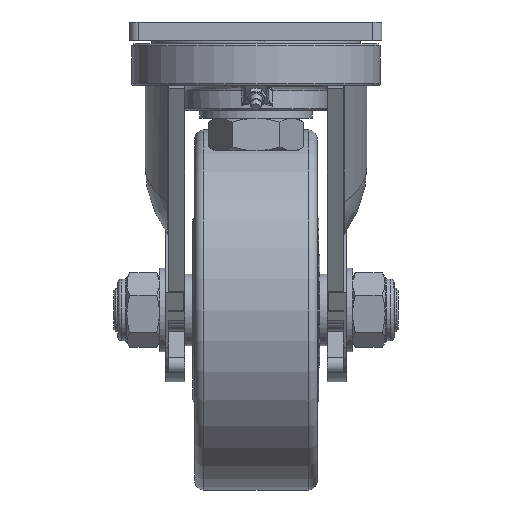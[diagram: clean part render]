
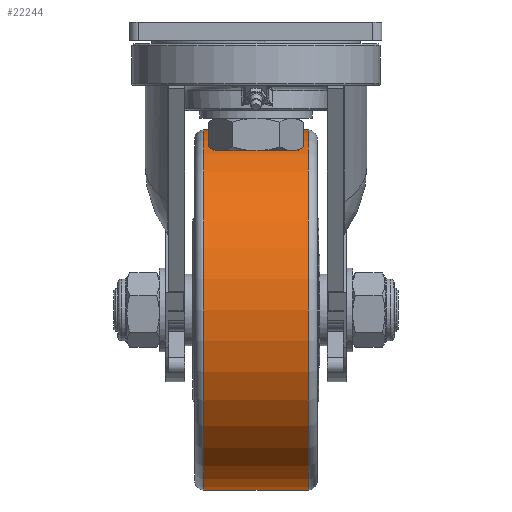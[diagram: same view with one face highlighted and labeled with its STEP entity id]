
A CAD part, left-side view. The second image highlights one B-rep face of the part: STEP entity #22244.
In plain terms, the highlighted cylindrical face has radius 100 mm (diameter 200 mm), a full revolution.
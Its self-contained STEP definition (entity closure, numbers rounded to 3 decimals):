
#22210=CARTESIAN_POINT('',(103.916,232.43,-85.));
#22211=VERTEX_POINT('',#22210);
#22212=CARTESIAN_POINT('',(103.916,232.43,15.));
#22213=DIRECTION('',(0.0,-1.0,0.0));
#22214=DIRECTION('',(0.0,0.0,1.0));
#22215=AXIS2_PLACEMENT_3D('',#22212,#22213,#22214);
#22216=CIRCLE('',#22215,100.);
#22217=EDGE_CURVE('',#22211,#22211,#22216,.T.);
#22225=CARTESIAN_POINT('',(103.916,203.43,15.));
#22226=DIRECTION('',(0.0,-1.0,0.0));
#22227=DIRECTION('',(0.0,0.0,1.0));
#22228=AXIS2_PLACEMENT_3D('',#22225,#22226,#22227);
#22229=CYLINDRICAL_SURFACE('',#22228,100.);
#22230=CARTESIAN_POINT('',(103.916,174.43,-85.));
#22231=VERTEX_POINT('',#22230);
#22232=CARTESIAN_POINT('',(103.916,174.43,15.));
#22233=DIRECTION('',(0.0,-1.0,0.0));
#22234=DIRECTION('',(0.0,0.0,1.0));
#22235=AXIS2_PLACEMENT_3D('',#22232,#22233,#22234);
#22236=CIRCLE('',#22235,100.);
#22237=EDGE_CURVE('',#22231,#22231,#22236,.T.);
#22238=ORIENTED_EDGE('',*,*,#22237,.F.);
#22239=EDGE_LOOP('',(#22238));
#22240=FACE_OUTER_BOUND('',#22239,.T.);
#22241=ORIENTED_EDGE('',*,*,#22217,.T.);
#22242=EDGE_LOOP('',(#22241));
#22243=FACE_BOUND('',#22242,.T.);
#22244=ADVANCED_FACE('',(#22240,#22243),#22229,.T.);
